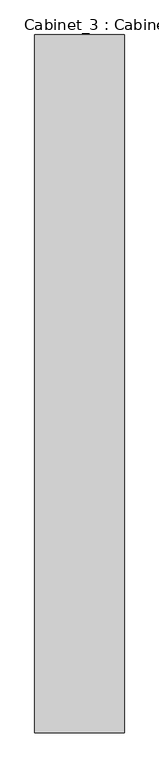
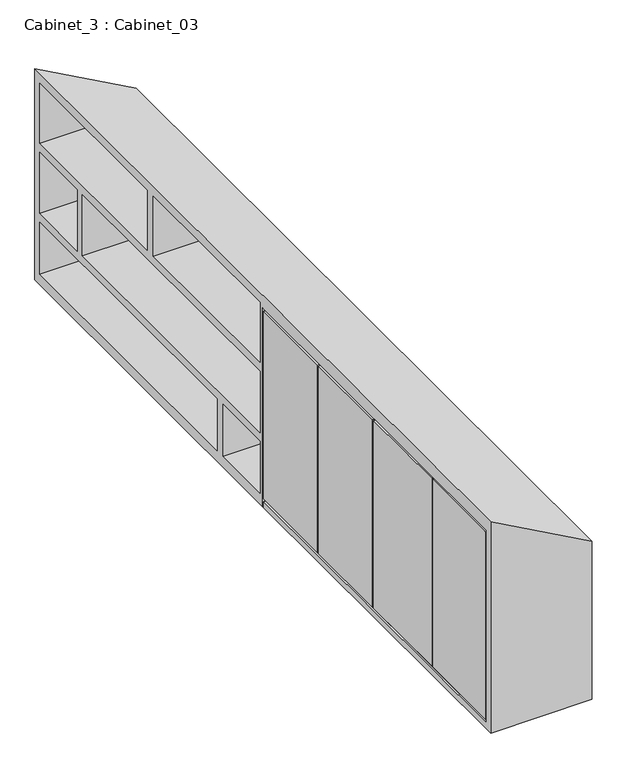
"""IFC4 building model written with IfcOpenShell, lengths in millimetres: furniture geometry, Cabinet_3 : Cabinet_03."""

from ifc_helpers import new_model, si_unit, origin, place, context, project, spatial, faceted_brep, source, transform, mapped, element, save


def cabinet_3_cabinet_03_0b43aa0a(model_context):
    return source(origin(), model_context, "Body", "Brep", [
        faceted_brep([(4673.876918, 9952.8014054, 9028.6009572), (4673.876918, 9952.8014054, 8080.0), (4098.876918, 9952.8014054, 8080.0), (4098.876918, 9952.8014054, 9347.3286618), (4673.876918, 5474.7078799, 9028.6009572), (4098.876918, 5474.7078799, 9347.3286618), (4098.876918, 5474.7078799, 8080.0), (4673.876918, 5474.7078799, 8080.0), (4098.876918, 7703.7546427, 8080.0), (4108.876918, 7703.7546427, 8080.0), (4108.876918, 7713.7546427, 8080.0), (4098.876918, 7713.7546427, 8080.0), (4098.876918, 7713.7546427, 9271.5557566), (4098.876918, 5516.2546427, 9271.5557566), (4098.876918, 5516.2546427, 8115.6119704), (4098.876918, 7703.7546427, 8115.6119704), (4098.876918, 9906.9990832, 8454.7571016), (4098.876918, 8161.9124905, 8454.7571016), (4098.876918, 8161.9124905, 8142.0700894), (4098.876918, 9906.9990832, 8142.0700894), (4098.876918, 9906.9990832, 8873.3468357), (4098.876918, 9534.8811926, 8873.3468357), (4098.876918, 9534.8811926, 8506.2975993), (4098.876918, 9906.9990832, 8506.2975993), (4098.876918, 9486.9990832, 8873.3468357), (4098.876918, 7741.6517623, 8873.3468357), (4098.876918, 7741.6517623, 8506.2975993), (4098.876918, 9486.9990832, 8506.2975993), (4098.876918, 8105.9887071, 8454.7571016), (4098.876918, 7741.6517623, 8454.7571016), (4098.876918, 7741.6517623, 8142.0700894), (4098.876918, 8105.9887071, 8142.0700894), (4098.876918, 8789.8309011, 8926.633347), (4098.876918, 8789.8309011, 9286.2975993), (4098.876918, 7741.6517623, 9286.2975993), (4098.876918, 7741.6517623, 8926.633347), (4098.876918, 9906.9990832, 8926.633347), (4098.876918, 9906.9990832, 9286.2975993), (4098.876918, 8851.5591159, 9286.2975993), (4098.876918, 8851.5591159, 8926.633347), (4098.876918, 7173.7546427, 8131.5557566), (4098.876918, 7173.7546427, 9255.6119704), (4098.876918, 7703.7546427, 9255.6119704), (4098.876918, 7703.7546427, 8131.5557566), (4098.876918, 7163.7546427, 9255.6119704), (4098.876918, 7163.7546427, 8131.5557566), (4098.876918, 6633.7546427, 8131.5557566), (4098.876918, 6633.7546427, 9255.6119704), (4098.876918, 6623.7546427, 9255.6119704), (4098.876918, 6623.7546427, 8131.5557566), (4098.876918, 6053.7546427, 8131.5557566), (4098.876918, 6053.7546427, 9255.6119704), (4098.876918, 6043.7546427, 9255.6119704), (4098.876918, 6043.7546427, 8131.5557566), (4098.876918, 5526.2546427, 8131.5557566), (4098.876918, 5526.2546427, 9255.6119704), (4638.876918, 9906.9990832, 8454.7571016), (4638.876918, 8161.9124905, 8454.7571016), (4638.876918, 8161.9124905, 8142.0700894), (4638.876918, 9906.9990832, 8142.0700894), (4638.876918, 9906.9990832, 8873.3468357), (4638.876918, 9534.8811926, 8873.3468357), (4638.876918, 9534.8811926, 8506.2975993), (4638.876918, 9906.9990832, 8506.2975993), (4638.876918, 9486.9990832, 8873.3468357), (4638.876918, 7741.6517623, 8873.3468357), (4638.876918, 7741.6517623, 8506.2975993), (4638.876918, 9486.9990832, 8506.2975993), (4638.876918, 8105.9887071, 8454.7571016), (4638.876918, 7741.6517623, 8454.7571016), (4638.876918, 7741.6517623, 8142.0700894), (4638.876918, 8105.9887071, 8142.0700894), (4637.9358652, 8789.8309011, 8926.633347), (4637.9358652, 8789.8309011, 9011.633347), (4637.9358652, 7741.6517623, 9011.633347), (4637.9358652, 7741.6517623, 8926.633347), (4637.9358652, 9906.9990832, 8926.633347), (4637.9358652, 9906.9990832, 9011.633347), (4637.9358652, 8851.5591159, 9011.633347), (4637.9358652, 8851.5591159, 8926.633347), (4108.876918, 7713.7546427, 9271.5557566), (4108.876918, 5516.2546427, 9271.5557566), (4108.876918, 7703.7546427, 8115.6119704), (4108.876918, 7703.7546427, 9255.6119704), (4108.876918, 7703.7546427, 8131.5557566), (4108.876918, 5516.2546427, 8115.6119704), (4108.876918, 7173.7546427, 9255.6119704), (4108.876918, 7173.7546427, 8131.5557566), (4108.876918, 7163.7546427, 8131.5557566), (4108.876918, 7163.7546427, 9255.6119704), (4108.876918, 6633.7546427, 9255.6119704), (4108.876918, 6633.7546427, 8131.5557566), (4108.876918, 6623.7546427, 8131.5557566), (4108.876918, 6623.7546427, 9255.6119704), (4108.876918, 6053.7546427, 9255.6119704), (4108.876918, 6053.7546427, 8131.5557566), (4108.876918, 6043.7546427, 9255.6119704), (4108.876918, 5526.2546427, 9255.6119704), (4108.876918, 5526.2546427, 8131.5557566), (4108.876918, 6043.7546427, 8131.5557566)], [[[0, 1, 2, 3]], [[4, 5, 6, 7]], [[1, 0, 4, 7]], [[2, 1, 7, 6, 8, 9, 10, 11]], [[3, 2, 11, 12, 13, 14, 15, 8, 6, 5], [16, 17, 18, 19], [20, 21, 22, 23], [24, 25, 26, 27], [28, 29, 30, 31], [32, 33, 34, 35], [36, 37, 38, 39]], [[40, 41, 42, 43]], [[44, 45, 46, 47]], [[48, 49, 50, 51]], [[52, 53, 54, 55]], [[0, 3, 5, 4]], [[56, 57, 17, 16]], [[58, 59, 19, 18]], [[59, 56, 16, 19]], [[57, 58, 18, 17]], [[57, 56, 59, 58]], [[60, 61, 21, 20]], [[62, 63, 23, 22]], [[63, 60, 20, 23]], [[61, 62, 22, 21]], [[61, 60, 63, 62]], [[64, 65, 25, 24]], [[66, 67, 27, 26]], [[67, 64, 24, 27]], [[65, 66, 26, 25]], [[65, 64, 67, 66]], [[68, 69, 29, 28]], [[70, 71, 31, 30]], [[71, 68, 28, 31]], [[69, 70, 30, 29]], [[69, 68, 71, 70]], [[72, 73, 33, 32]], [[74, 75, 35, 34]], [[73, 72, 75, 74]], [[75, 72, 32, 35]], [[73, 74, 34, 33]], [[76, 77, 37, 36]], [[78, 79, 39, 38]], [[77, 76, 79, 78]], [[79, 76, 36, 39]], [[77, 78, 38, 37]], [[12, 80, 81, 13]], [[80, 12, 11, 10]], [[9, 8, 15, 82]], [[42, 83, 84, 43]], [[81, 80, 10, 9, 82, 85], [86, 87, 84, 83], [88, 89, 90, 91], [92, 93, 94, 95], [96, 97, 98, 99]], [[41, 40, 87, 86]], [[45, 44, 89, 88]], [[47, 46, 91, 90]], [[49, 48, 93, 92]], [[51, 50, 95, 94]], [[53, 52, 96, 99]], [[86, 83, 42, 41]], [[90, 89, 44, 47]], [[94, 93, 48, 51]], [[96, 52, 55, 97]], [[84, 87, 40, 43]], [[88, 91, 46, 45]], [[92, 95, 50, 49]], [[53, 99, 98, 54]], [[14, 85, 82, 15]], [[81, 85, 14, 13]], [[98, 97, 55, 54]]]),
    ])


if __name__ == "__main__":
    model = new_model("IFC4")
    model_context = context("Model", 3, world=origin())
    ifc_project = project(units=[si_unit("LENGTHUNIT", "METRE", prefix="MILLI")], contexts=[model_context])
    site = spatial("IfcSite", under=ifc_project)
    building = spatial("IfcBuilding", under=site)
    placement = place(None, origin())
    cabinet_3_cabinet_03_shape = cabinet_3_cabinet_03_0b43aa0a(model_context)
    element("IfcFurniture", 1, ObjectType="Cabinet_3 : Cabinet_03", at=placement, inside=building, context=model_context, shape_type="MappedRepresentation", body=[
        mapped(cabinet_3_cabinet_03_shape, transform((0.0, 0.0, 0.0), x_axis=(1.0, 0.0, 0.0), y_axis=(0.0, 1.0, 0.0), z_axis=(0.0, 0.0, 1.0))),
    ])
    save(model, "model.ifc")
